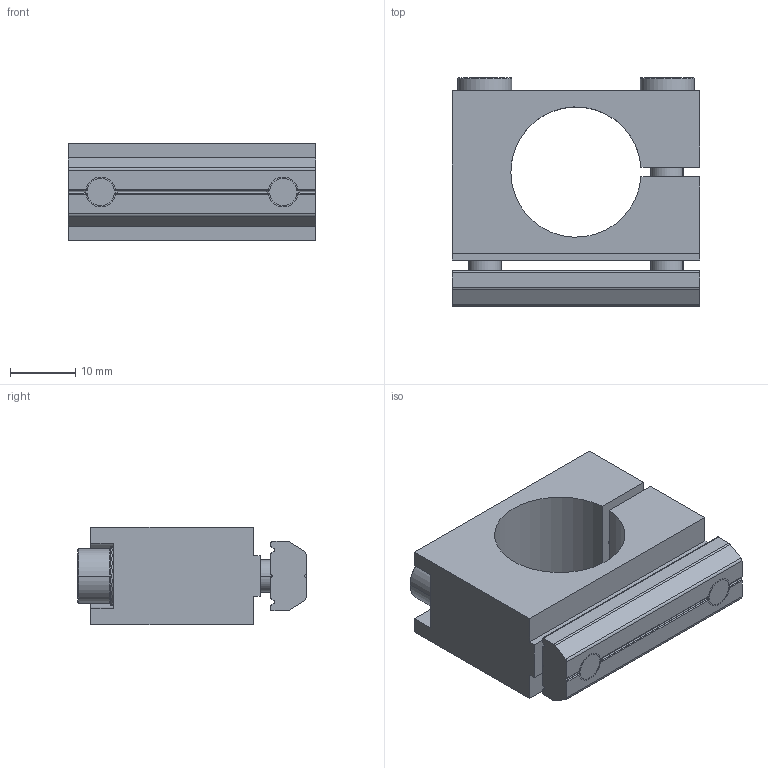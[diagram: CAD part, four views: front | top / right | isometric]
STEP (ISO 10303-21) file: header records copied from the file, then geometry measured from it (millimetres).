
FILE_DESCRIPTION (( 'STEP AP214' ), '1' );
FILE_NAME ('SMBC-2038T.STEP', '2022-12-09T00:41:17', ( '' ), ( '' ), 'SwSTEP 2.0', 'SolidWorks 2018', '' );
FILE_SCHEMA (( 'AUTOMOTIVE_DESIGN' ));
Length unit declared in the file: millimetre
Products named in the file (5): SMBC-2038T; PTN-M5P28; SMBC-2038; PTC-M5L30; PTS-M5
Assembly tree (6 placements, depth 2):
  SMBC-2038T
    SMBC-2038
    PTN-M5P28
    PTC-M5L30  x2
    PTS-M5  x2
Bounding box: 38 x 35 x 15 mm (x, y, z)
Volume: 11469.5 mm3; surface area: 8197.8 mm2
Topology: 6 solids, 6 shells, 457 faces, 1335 edges, 886 vertices
Faces by surface type: plane 387, cylinder 58, cone 12
Entity records: 9423 total; most frequent: CARTESIAN_POINT 1759, ORIENTED_EDGE 1602, DIRECTION 1559, EDGE_CURVE 801, VERTEX_POINT 532, AXIS2_PLACEMENT_3D 524, LINE 511, VECTOR 511
